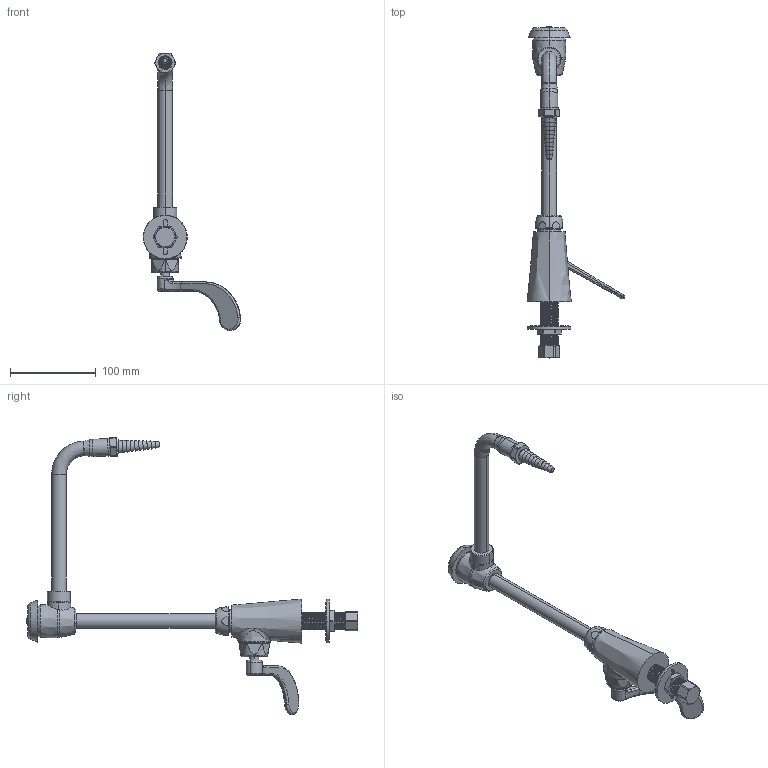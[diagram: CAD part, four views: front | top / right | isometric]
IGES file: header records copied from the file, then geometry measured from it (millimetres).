
Start section:  PTC IGES file: LWS3-A16-F.igs
Global section: file name: LWS3-A16-F.igs; native system: Creo Parametric by PTC Inc.; preprocessor: 2014500; author: usch_engrender; organization: Unknown; date: 20151204.110933; units: inch
Bounding box: 114.18 x 387.93 x 324.27 mm (x, y, z)
Volume: 352816.9 mm3; surface area: 81912.4 mm2
Topology: 1 solids, 5 shells, 391 faces, 956 edges, 604 vertices
Faces by surface type: revolution 270, bspline 121
